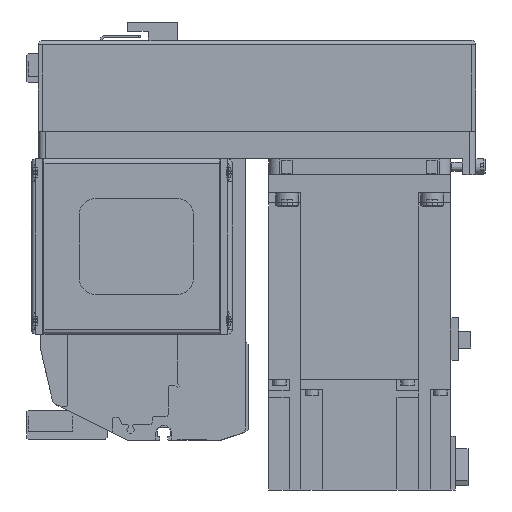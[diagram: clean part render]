
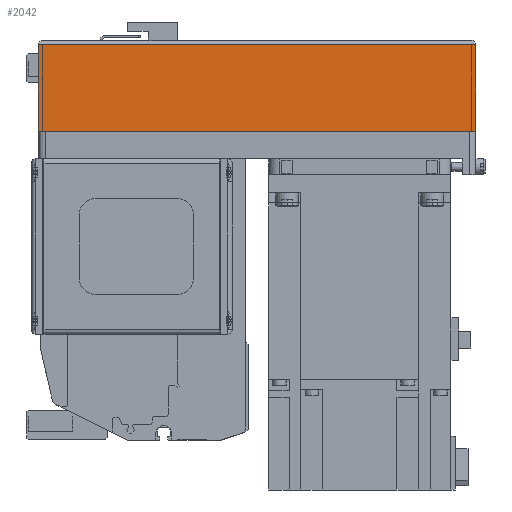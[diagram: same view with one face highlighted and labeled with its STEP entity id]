
A CAD part, left-side view. The second image highlights one B-rep face of the part: STEP entity #2042.
In plain terms, the highlighted planar face has unit normal (-1, 0, 0) as drawn and (0, -1, 0) by its records, which use the part's own axes.
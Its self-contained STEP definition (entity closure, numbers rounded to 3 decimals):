
#2042 = ADVANCED_FACE( '', ( #4854 ), #4855, .T. );
#4854 = FACE_OUTER_BOUND( '', #8658, .T. );
#4855 = PLANE( '', #8659 );
#8658 = EDGE_LOOP( '', ( #14399, #14400, #14401, #14402 ) );
#8659 = AXIS2_PLACEMENT_3D( '', #14403, #14404, #14405 );
#14399 = ORIENTED_EDGE( '', *, *, #23016, .F. );
#14400 = ORIENTED_EDGE( '', *, *, #23017, .F. );
#14401 = ORIENTED_EDGE( '', *, *, #21677, .T. );
#14402 = ORIENTED_EDGE( '', *, *, #23018, .T. );
#14403 = CARTESIAN_POINT( '', ( -192., -40., -12.1 ) );
#14404 = DIRECTION( '', ( 0., -1., 0. ) );
#14405 = DIRECTION( '', ( 0., 0., -1. ) );
#21677 = EDGE_CURVE( '', #25914, #25912, #25915, .T. );
#23016 = EDGE_CURVE( '', #28123, #25577, #28124, .T. );
#23017 = EDGE_CURVE( '', #25914, #28123, #28125, .T. );
#23018 = EDGE_CURVE( '', #25912, #25577, #28126, .T. );
#25577 = VERTEX_POINT( '', #31543 );
#25912 = VERTEX_POINT( '', #32082 );
#25914 = VERTEX_POINT( '', #32085 );
#25915 = LINE( '', #32086, #32087 );
#28123 = VERTEX_POINT( '', #35491 );
#28124 = LINE( '', #35492, #35493 );
#28125 = LINE( '', #35494, #35495 );
#28126 = LINE( '', #35496, #35497 );
#31543 = CARTESIAN_POINT( '', ( 0., -40., -50. ) );
#32082 = CARTESIAN_POINT( '', ( -192., -40., -50. ) );
#32085 = CARTESIAN_POINT( '', ( -192., -40., -12.1 ) );
#32086 = CARTESIAN_POINT( '', ( -192., -40., -12.1 ) );
#32087 = VECTOR( '', #40551, 1000. );
#35491 = CARTESIAN_POINT( '', ( 0., -40., -12.1 ) );
#35492 = CARTESIAN_POINT( '', ( 0., -40., -12.1 ) );
#35493 = VECTOR( '', #42224, 1000. );
#35494 = CARTESIAN_POINT( '', ( -192., -40., -12.1 ) );
#35495 = VECTOR( '', #42225, 1000. );
#35496 = CARTESIAN_POINT( '', ( -192., -40., -50. ) );
#35497 = VECTOR( '', #42226, 1000. );
#40551 = DIRECTION( '', ( 0., 0., -1. ) );
#42224 = DIRECTION( '', ( 0., 0., -1. ) );
#42225 = DIRECTION( '', ( 1., 0., 0. ) );
#42226 = DIRECTION( '', ( 1., 0., 0. ) );
